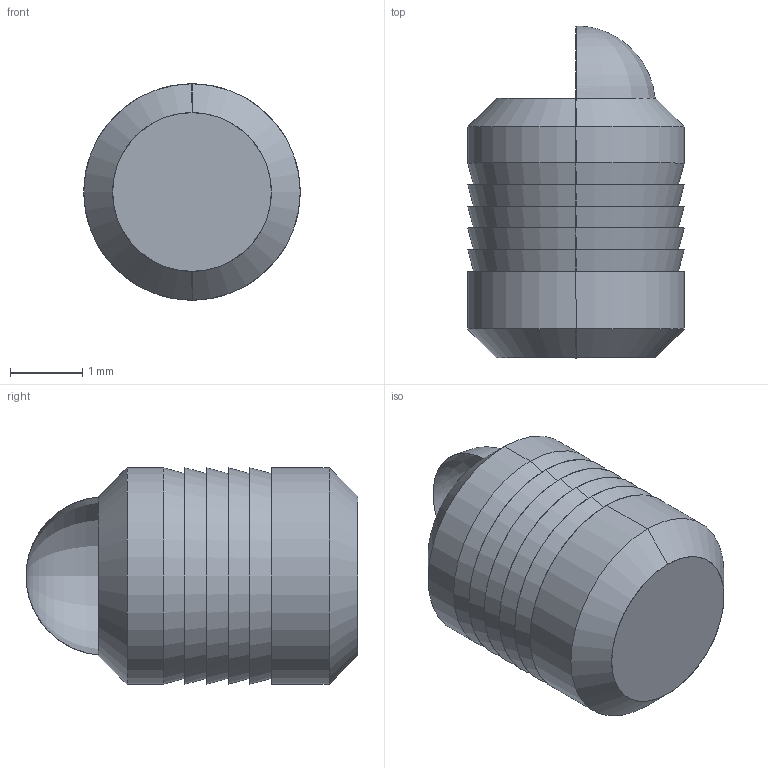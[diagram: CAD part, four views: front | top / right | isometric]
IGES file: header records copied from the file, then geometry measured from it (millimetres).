
Start section: SolidWorks IGES file using analytic representation for surfaces
Global section: file name: C:\Users\IanO\Desktop\P0190_v2\P0190_v2_20230321_IGES\P0190.030-A2-BS.igs; native system: SolidWorks 2019; preprocessor: SolidWorks 2019; author: IanO; date: 231219.161235; units: millimetre
Bounding box: 3 x 4.6 x 3 mm (x, y, z)
Surface area: 66 mm2 (no closed solid volume)
Topology: 0 solids, 0 shells, 28 faces, 440 edges, 437 vertices
Faces by surface type: revolution 22, bspline 6
